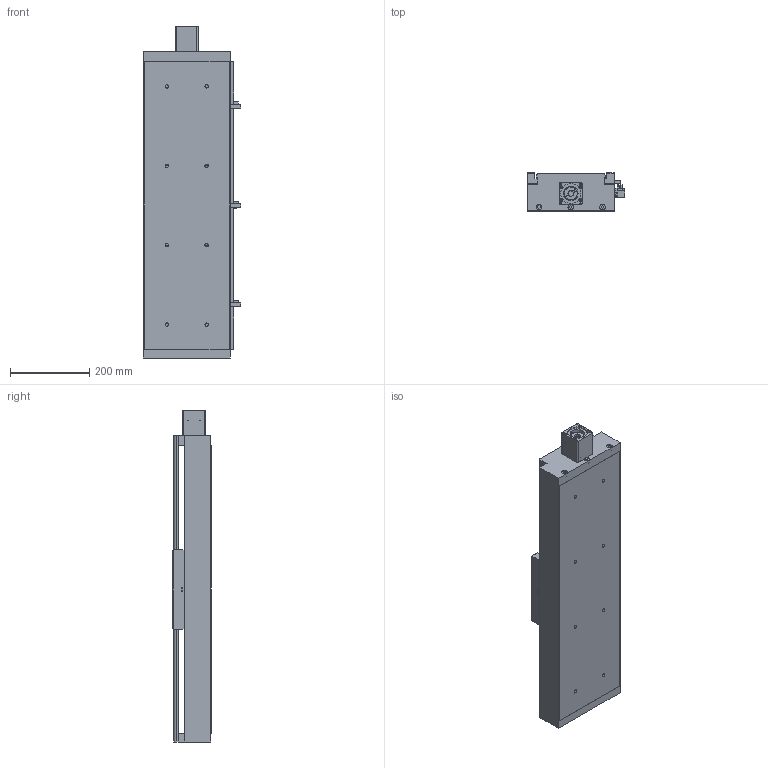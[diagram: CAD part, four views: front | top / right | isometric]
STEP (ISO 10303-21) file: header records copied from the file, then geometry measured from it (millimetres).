
FILE_DESCRIPTION((''),'2;1');
FILE_NAME('E:\libraries\UIA actuator library 2016\standard actuator\UIA220R20NDC\UIA220R20NDC ball screw 20\UIA220R20NDC-_ _ _-R20_ _ stp file, 01May16\UIA220R20NDC-500-R20_ _-M60-P13-C10-S.stp','2016-04-29T15:17:18',('h029'),(''),'Autodesk Inventor 11','Autodesk Inventor 11','');
FILE_SCHEMA(('AUTOMOTIVE_DESIGN { 1 0 10303 214 1 1 1 1 }'));
Length unit declared in the file: millimetre
Products named in the file (10): UIA220R20NDC-500-R20_ _; UIA220R20NDC-body; 41-100 0010 CARRIAGE; sensor rail; Sensor Switch; motor mount M60; SOH-32C; SOH-32C-3; SOH-32C-1; SOH-32C-2
Assembly tree (9 placements, depth 3):
  UIA220R20NDC-500-R20_ _
    UIA220R20NDC-body
    41-100 0010 CARRIAGE
    sensor rail
    Sensor Switch
    motor mount M60
    SOH-32C
      SOH-32C-3
      SOH-32C-1
      SOH-32C-2
Bounding box: 246.5 x 96 x 836 mm (x, y, z)
Volume: 5223175 mm3; surface area: 1196669.1 mm2
Topology: 8 solids, 8 shells, 512 faces, 1366 edges, 898 vertices
Faces by surface type: plane 341, bspline 121, cylinder 48, cone 2
Full cylindrical faces by diameter (mm): 3.242 x2, 4.5 x2, 7 x4, 7.5 x2, 12 x2, 13.8 x3, 14 x4, 15 x1, 32 x3, 37 x1, 46.9 x1, 47.1 x1
Entity records: 16726 total; most frequent: CARTESIAN_POINT 4732, ORIENTED_EDGE 2330, DIRECTION 2281, EDGE_CURVE 1165, VECTOR 849, LINE 849, VERTEX_POINT 824, EDGE_LOOP 743
